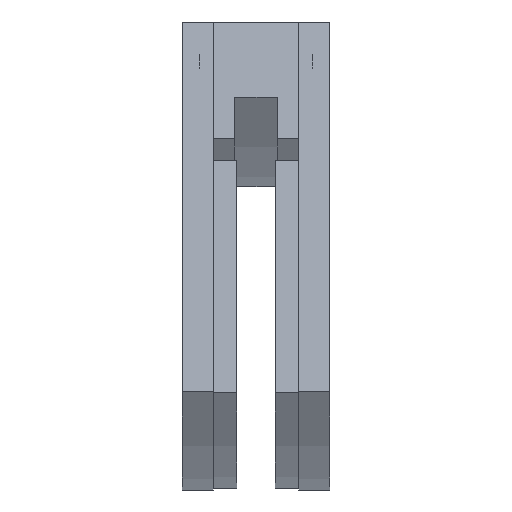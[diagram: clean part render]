
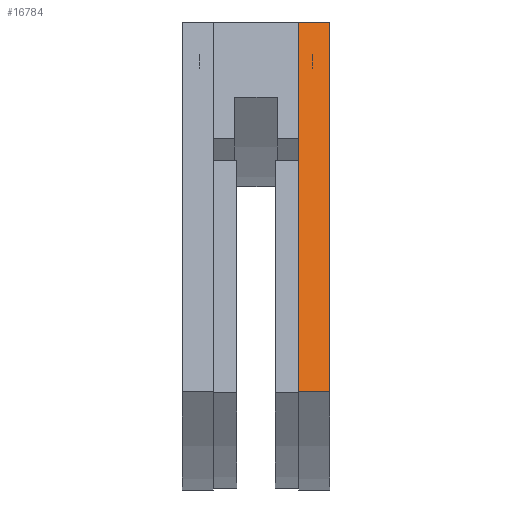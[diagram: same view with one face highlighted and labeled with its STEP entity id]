
A CAD part, left-side view. The second image highlights one B-rep face of the part: STEP entity #16784.
In plain terms, the highlighted planar face has unit normal (-0.97, 0, 0.242).
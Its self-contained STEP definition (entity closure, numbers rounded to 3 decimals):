
#250 = VECTOR ( 'NONE', #11667, 1000. ) ;
#329 = LINE ( 'NONE', #6435, #22380 ) ;
#383 = AXIS2_PLACEMENT_3D ( 'NONE', #8015, #4090, #24773 ) ;
#887 = DIRECTION ( 'NONE',  ( -0.242, 0., -0.97 ) ) ;
#2096 = VECTOR ( 'NONE', #22826, 1000. ) ;
#2924 = ORIENTED_EDGE ( 'NONE', *, *, #24971, .T. ) ;
#2963 = ORIENTED_EDGE ( 'NONE', *, *, #15738, .F. ) ;
#4090 = DIRECTION ( 'NONE',  ( 0.97, 0., -0.242 ) ) ;
#5212 = VERTEX_POINT ( 'NONE', #9506 ) ;
#5433 = CARTESIAN_POINT ( 'NONE',  ( -181.925, -30., -729.662 ) ) ;
#6435 = CARTESIAN_POINT ( 'NONE',  ( -181.925, -30., -729.662 ) ) ;
#6683 = VERTEX_POINT ( 'NONE', #17332 ) ;
#7456 = LINE ( 'NONE', #5433, #250 ) ;
#8015 = CARTESIAN_POINT ( 'NONE',  ( -181.925, -30., -729.662 ) ) ;
#8060 = ORIENTED_EDGE ( 'NONE', *, *, #26342, .F. ) ;
#8298 = PLANE ( 'NONE',  #383 ) ;
#8679 = CARTESIAN_POINT ( 'NONE',  ( -205.634, -30., -824.751 ) ) ;
#9506 = CARTESIAN_POINT ( 'NONE',  ( -205.634, -22., -824.751 ) ) ;
#9981 = CARTESIAN_POINT ( 'NONE',  ( -189.425, -22., -759.742 ) ) ;
#10242 = CARTESIAN_POINT ( 'NONE',  ( -181.925, -22., -729.662 ) ) ;
#11415 = CARTESIAN_POINT ( 'NONE',  ( -181.925, -30., -729.662 ) ) ;
#11667 = DIRECTION ( 'NONE',  ( 0., 1., 0. ) ) ;
#11943 = VECTOR ( 'NONE', #25267, 1000. ) ;
#12297 = LINE ( 'NONE', #26475, #2096 ) ;
#15738 = EDGE_CURVE ( 'Defeatured_0_13+Defeatured_0_10+Defeatured_0_9+Defeatured_0_11', #18783, #25956, #329, .T. ) ;
#16643 = CARTESIAN_POINT ( 'NONE',  ( -205.634, -30., -824.751 ) ) ;
#16784 = ADVANCED_FACE ( 'Defeatured_0_10', ( #24659 ), #8298, .F. ) ;
#17332 = CARTESIAN_POINT ( 'NONE',  ( -181.925, -22., -729.662 ) ) ;
#18783 = VERTEX_POINT ( 'NONE', #11415 ) ;
#19612 = ORIENTED_EDGE ( 'NONE', *, *, #20851, .T. ) ;
#20497 = LINE ( 'NONE', #10242, #22320 ) ;
#20851 = EDGE_CURVE ( 'Defeatured_0_10+Defeatured_0_8+Defeatured_0_3+Defeatured_0_11', #24261, #5212, #20497, .T. ) ;
#20945 = LINE ( 'NONE', #8679, #11943 ) ;
#22236 = EDGE_LOOP ( 'NONE', ( #8060, #19612, #22525, #2963, #2924 ) ) ;
#22251 = DIRECTION ( 'NONE',  ( -0.242, 0., -0.97 ) ) ;
#22320 = VECTOR ( 'NONE', #22251, 1000. ) ;
#22380 = VECTOR ( 'NONE', #887, 1000. ) ;
#22525 = ORIENTED_EDGE ( 'NONE', *, *, #25186, .F. ) ;
#22826 = DIRECTION ( 'NONE',  ( 0.242, 0., 0.97 ) ) ;
#24261 = VERTEX_POINT ( 'NONE', #9981 ) ;
#24659 = FACE_OUTER_BOUND ( 'NONE', #22236, .T. ) ;
#24773 = DIRECTION ( 'NONE',  ( 0.242, 0., 0.97 ) ) ;
#24971 = EDGE_CURVE ( 'Defeatured_0_10+Defeatured_0_9+Defeatured_0_13+Defeatured_0_3', #18783, #6683, #7456, .T. ) ;
#25186 = EDGE_CURVE ( 'Defeatured_0_11+Defeatured_0_10+Defeatured_0_13+Defeatured_0_8', #25956, #5212, #20945, .T. ) ;
#25267 = DIRECTION ( 'NONE',  ( 0., 1., 0. ) ) ;
#25956 = VERTEX_POINT ( 'NONE', #16643 ) ;
#26342 = EDGE_CURVE ( 'Defeatured_0_3+Defeatured_0_10+Defeatured_0_6+Defeatured_0_1', #24261, #6683, #12297, .T. ) ;
#26475 = CARTESIAN_POINT ( 'NONE',  ( -181.925, -22., -729.662 ) ) ;
